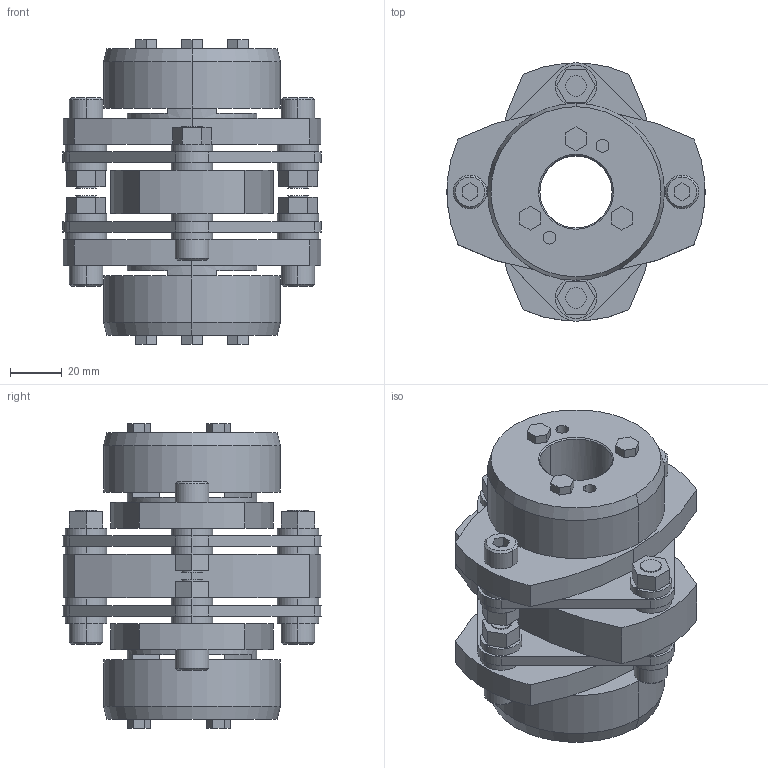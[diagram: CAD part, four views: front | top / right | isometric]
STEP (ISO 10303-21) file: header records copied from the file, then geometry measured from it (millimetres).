
FILE_DESCRIPTION((''),'2;1');
FILE_NAME('LCD-100T7-28×28.stp','2015-11-02T07:30:12',(''),(''),'AutoCAD STEP 2000i','AutoCAD 2000i',', , ');
FILE_SCHEMA(('CONFIG_CONTROL_DESIGN'));
Length unit declared in the file: millimetre
Products named in the file (8): LCD-100T7-28×28; 忣兜1; LC100T7-T028; LC100T7-T028-1; LC100T7-T025; LC100T7-T022-1; LC100T7-T022; LCD100-ITA
Assembly tree (7 placements, depth 2):
  LCD-100T7-28×28
    忣兜1
    LC100T7-T028
    LC100T7-T028-1
    LC100T7-T025
    LC100T7-T022-1
    LC100T7-T022
    LCD100-ITA
Bounding box: 100 x 99.93 x 118 mm (x, y, z)
Volume: 366068.8 mm3; surface area: 91719.9 mm2
Topology: 1 solids, 1 shells, 320 faces, 780 edges, 512 vertices
Faces by surface type: plane 176, cylinder 120, cone 24
Entity records: 9677 total; most frequent: DIRECTION 1716, CARTESIAN_POINT 1620, ORIENTED_EDGE 1560, EDGE_CURVE 780, AXIS2_PLACEMENT_3D 608, VERTEX_POINT 512, VECTOR 500, LINE 500
